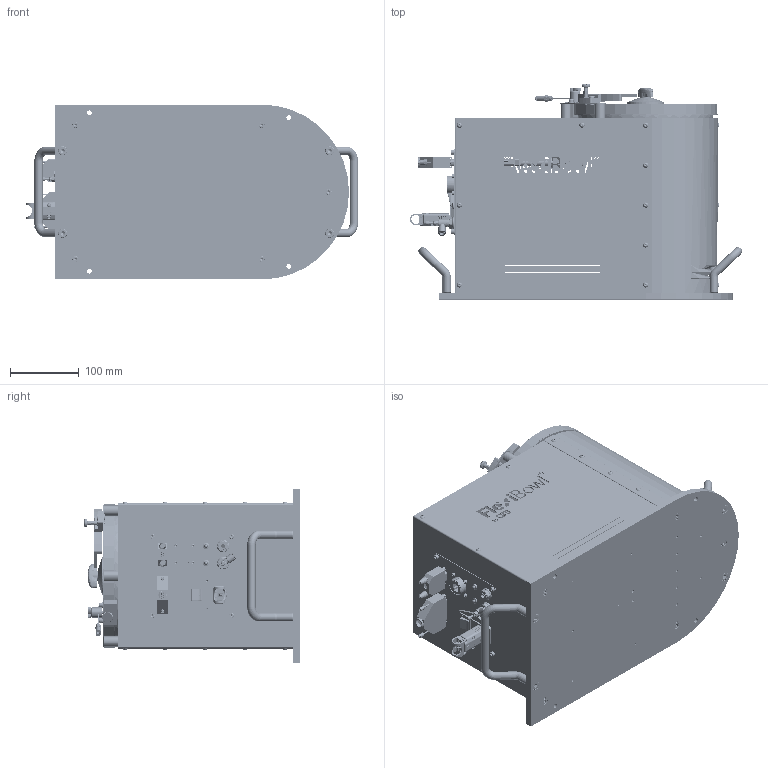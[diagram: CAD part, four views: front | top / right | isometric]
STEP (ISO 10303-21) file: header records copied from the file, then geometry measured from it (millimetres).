
FILE_DESCRIPTION (( 'STEP AP214' ), '1' );
FILE_NAME ('FB200CC.STEP', '2021-09-09T13:13:36', ( '' ), ( '' ), 'SwSTEP 2.0', 'SolidWorks 2020', '' );
FILE_SCHEMA (( 'AUTOMOTIVE_DESIGN' ));
Length unit declared in the file: millimetre
Products named in the file (82): Copia di CE000327^CE000336; CE000336; CM000690; CE000420; Copia di qcths0834-20s_05^CM000689_______; CM000397; Copia di qcths0834-20s_03^CM000689_______; CM000723; CE000276; CE000335; Copia di 15 poli femmina^CE000302; CM000170; PD001536; Copia di connector_amet-15rs^CE000302; CM000621; PD002836; PD002405; CM000622; PD002408; CM000032; CE000005; SM000093; CM000015_001; Copia di qcths0834-b_01^CM000690_______; CM000045; CE000007; PD001125; CM000001; CE000013; Copia di 39-01-2025^CE000302; CM000024; FB200CC; CM000917; CM000932; Copia di qcths0834-20s_01^CM000689_______; CM000015; PD001532; CM000130; PD001735; PD001539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
Assembly tree (196 placements, depth 3):
  FB200CC
    CM000021  x5
    CM000397  x5
    CM000725  x11
    CM000043  x13
    CM000045  x21
    CM000621  x2
    CM000032  x4
    CM000170  x3
    CM000027  x2
    CM000035  x2
    CM000622  x2
    CM000130  x6
    CM000026  x16
    CM000024  x16
    CM000691
    CM000025  x4
    CM000006  x4
    CM000166  x4
    CM000932
    PD001537
    CM000001  x2
    PD001532  x5
    PD001536
    PD001538
    PD001539
    PD001452
    CM000690
      Copia di qcths0834-b_01^CM000690_______
      Copia di qcths0834-b_02^CM000690_______
      Copia di qcths0834-b_03^CM000690_______
      Copia di qcths0834-b_04^CM000690_______
    CM000689
      Copia di qcths0834-20s_01^CM000689_______
      Copia di qcths0834-20s_02^CM000689_______
      Copia di qcths0834-20s_03^CM000689_______
      Copia di qcths0834-20s_04^CM000689_______
      Copia di qcths0834-20s_05^CM000689_______
    PD001137
    PD001138
    PD001451
    PD001126
    PD001125
    SM000093
    CM000723  x2
    PD001734
    PD001735
    PD001733  x2
    PD001542_FB200
    CE000007
    CM000015  x2
      CM000015_001
      CM000015_002
    CM000871
    CE000013  x2
    CE000335
      Copia di Led RDY_FLT^CE000335
      Copia di 39-01-2045^CE000335
    CE000336
      Copia di CE000327^CE000336
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Bounding box: 482.2 x 312.5 x 254 mm (x, y, z)
Volume: 2240189.1 mm3; surface area: 1374855.2 mm2
Topology: 206 solids, 225 shells, 14044 faces, 35256 edges, 21865 vertices
Faces by surface type: plane 6621, cylinder 3508, cone 2061, bspline 1248, torus 539, sphere 67
Entity records: 499106 total; most frequent: CARTESIAN_POINT 176757, ORIENTED_EDGE 57678, DIRECTION 49541, EDGE_CURVE 29041, VERTEX_POINT 18421, AXIS2_PLACEMENT_3D 17802, VECTOR 13937, LINE 13937
